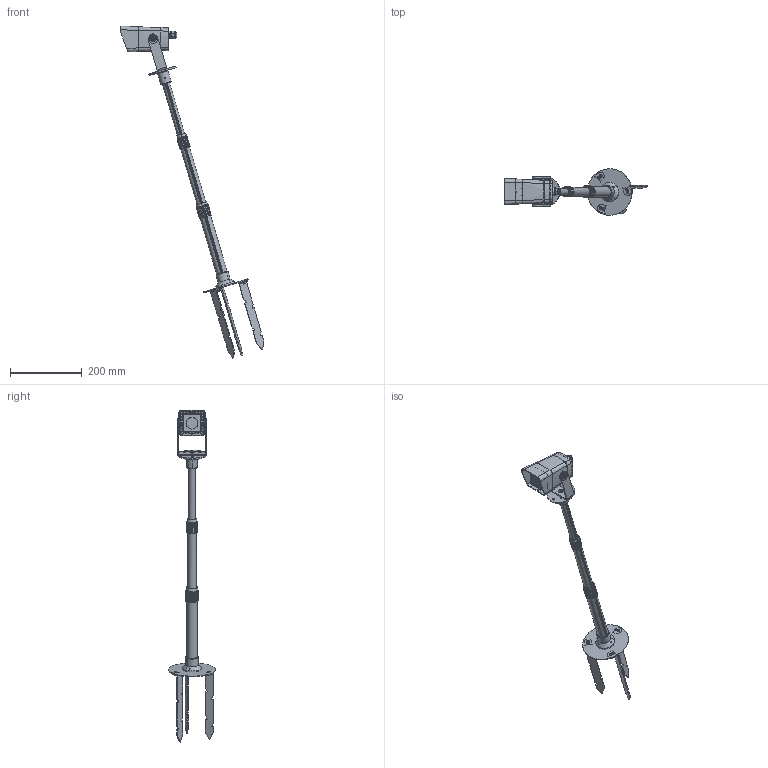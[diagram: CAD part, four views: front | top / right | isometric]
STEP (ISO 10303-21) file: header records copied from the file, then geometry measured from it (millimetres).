
FILE_DESCRIPTION((''),'2;1');
FILE_NAME('3DV_ASM_ASM_1_ASM','2025-08-01T',('C028'),(''),'CREO PARAMETRIC BY PTC INC, 2014190','CREO PARAMETRIC BY PTC INC, 2014190','');
FILE_SCHEMA(('CONFIG_CONTROL_DESIGN'));
Products named in the file (43): SMDGUANY_8_1_2_5_1; TJ-B78_5_1; 3DV-TJYAQUAN_5_1; TJ-B78_ASM_5_ASM_1_ASM; ID-FRONT_RING_4-1_10_5_5_1; ID-HOUSING_FRONT_U_5_1; ID-HOUSING_BOTTOM_U_5_1; ID-GLASS_1_2_3_5_1; HOLDER-3522-A0-1313_1_5_1; COB-10_1_1_5_1; EJ-B71-024_ASM_5_ASM_1_ASM; BT-M3-20_3_1; BT-M3-8_5_1; ID-U_3DV_5_1; PG9_R9_4_8_2_3_1; 3AD-KDP_3_1; DB-M6-8_3_1; MOZU-GYA-TJB_3_1; 3DV-DYGDPIAN_3_1; M3X4L_3_1; MOZU-GYA-COB_3_1; B3DVU0167-DICHA_ASM_1_ASM_2_ASM; 3DV-U_ASM_2_ASM_1_ASM; 3DV_ASM_1_ASM_1_ASM; 2023323AA_1_1_1; GUAN-4_2_1_1; GUAN-3_1_1_1; GUAN-2_1_1_1; PRODUCT_259840_3_1_1; _______-2_1_1_1; HU-5170_1_1_1; HU-5171_1_1_1; PRODUCT_202162_ASM_1_ASM_1_ASM__ASM; GUDINGBAN_33_1_1_1; DICHAPIAN_32_1_1_1; M4LUOSI_32_1_1_1; XIN-DICHA_ASM_32_ASM_1_ASM_1_AS_ASM; XIN-DICHA_ASM_ASM_1_ASM_1_ASM_1_ASM; _20A_ASM_1_ASM_1_ASM; PRODUCT_208422_1_1_1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
Assembly tree (60 placements, depth 6):
  3DV_ASM_ASM_1_ASM
    3DV_ASM_1_ASM_1_ASM
      3DV-U_ASM_2_ASM_1_ASM
        B3DVU0167-DICHA_ASM_1_ASM_2_ASM
          TJ-B78_ASM_5_ASM_1_ASM
            SMDGUANY_8_1_2_5_1
            TJ-B78_5_1
            3DV-TJYAQUAN_5_1
          ID-FRONT_RING_4-1_10_5_5_1
          ID-HOUSING_FRONT_U_5_1
          ID-HOUSING_BOTTOM_U_5_1
          ID-GLASS_1_2_3_5_1
          EJ-B71-024_ASM_5_ASM_1_ASM
            HOLDER-3522-A0-1313_1_5_1
            COB-10_1_1_5_1
          BT-M3-20_3_1  x4
          BT-M3-8_5_1  x4
          ID-U_3DV_5_1
          PG9_R9_4_8_2_3_1
          3AD-KDP_3_1  x2
          DB-M6-8_3_1  x2
          MOZU-GYA-TJB_3_1
          3DV-DYGDPIAN_3_1
          M3X4L_3_1  x2
          MOZU-GYA-COB_3_1
    DICHA_ASM-2021_2_27-5128_ASM__1_ASM
      2023323AA_1_1_1
      PRODUCT_202162_ASM_1_ASM_1_ASM__ASM
        GUAN-4_2_1_1
        GUAN-3_1_1_1
        GUAN-2_1_1_1
        PRODUCT_259840_3_1_1
        _______-2_1_1_1
        HU-5170_1_1_1
        HU-5171_1_1_1
      _20A_ASM_1_ASM_1_ASM
        XIN-DICHA_ASM_ASM_1_ASM_1_ASM_1_ASM
          XIN-DICHA_ASM_32_ASM_1_ASM_1_AS_ASM
            GUDINGBAN_33_1_1_1
            DICHAPIAN_32_1_1_1  x3
            M4LUOSI_32_1_1_1  x6
      PRODUCT_208422_1_1_1  x3
    ZJJ_2
Bounding box: 401.39 x 129.71 x 926.06 mm (x, y, z)
Volume: 536134.1 mm3; surface area: 357843.3 mm2
Topology: 50 solids, 50 shells, 3581 faces, 9539 edges, 6299 vertices
Faces by surface type: plane 1634, cylinder 674, extrusion 634, cone 318, torus 172, bspline 129, sphere 12, revolution 8
Entity records: 106547 total; most frequent: CARTESIAN_POINT 37051, ORIENTED_EDGE 14788, DIRECTION 13432, EDGE_CURVE 7394, VERTEX_POINT 4925, AXIS2_PLACEMENT_3D 4619, VECTOR 4186, LINE 3836
